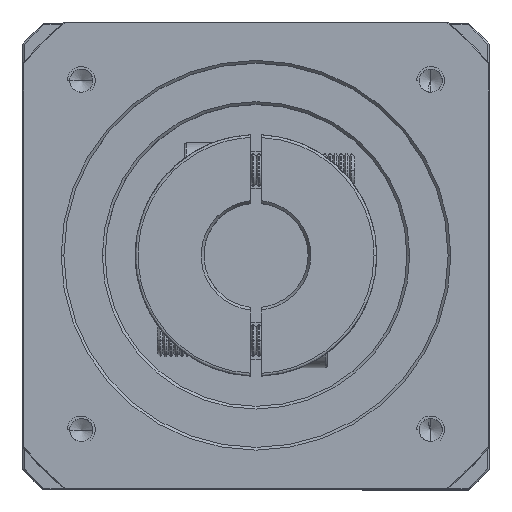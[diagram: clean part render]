
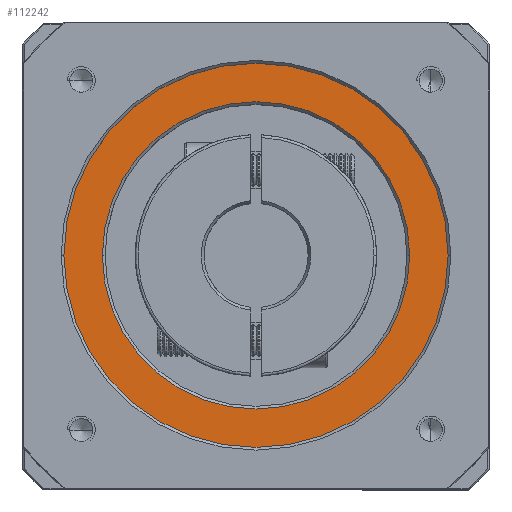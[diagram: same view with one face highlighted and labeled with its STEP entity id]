
A CAD part, top view. The second image highlights one B-rep face of the part: STEP entity #112242.
In plain terms, the highlighted planar face has unit normal (0, 0, 1).
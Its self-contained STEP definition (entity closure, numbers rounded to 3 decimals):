
#744 = PLANE ( 'NONE',  #124029 ) ;
#2113 = AXIS2_PLACEMENT_3D ( 'NONE', #29395, #98862, #48502 ) ;
#4272 = DIRECTION ( 'NONE',  ( 1., 0., 0. ) ) ;
#4357 = DIRECTION ( 'NONE',  ( 0., 0., 1. ) ) ;
#5493 = VERTEX_POINT ( 'NONE', #21495 ) ;
#6017 = CARTESIAN_POINT ( 'NONE',  ( -52.737, 49.441, 19.814 ) ) ;
#8318 = EDGE_CURVE ( 'NONE', #123384, #11591, #119430, .T. ) ;
#9440 = DIRECTION ( 'NONE',  ( 0., 0., 1. ) ) ;
#11333 = ORIENTED_EDGE ( 'NONE', *, *, #35650, .T. ) ;
#11591 = VERTEX_POINT ( 'NONE', #51313 ) ;
#12225 = DIRECTION ( 'NONE',  ( 0., 0., -1. ) ) ;
#19127 = EDGE_CURVE ( 'NONE', #11591, #123384, #39736, .T. ) ;
#19529 = FACE_OUTER_BOUND ( 'NONE', #56954, .T. ) ;
#21495 = CARTESIAN_POINT ( 'NONE',  ( -17.737, 49.441, 19.814 ) ) ;
#29395 = CARTESIAN_POINT ( 'NONE',  ( -52.737, 49.441, 19.814 ) ) ;
#35650 = EDGE_CURVE ( 'NONE', #5493, #95022, #108989, .T. ) ;
#39736 = CIRCLE ( 'NONE', #52150, 28. ) ;
#44289 = CIRCLE ( 'NONE', #110226, 35. ) ;
#44647 = EDGE_LOOP ( 'NONE', ( #87200, #64010 ) ) ;
#48502 = DIRECTION ( 'NONE',  ( 1., 0., 0. ) ) ;
#50657 = AXIS2_PLACEMENT_3D ( 'NONE', #6017, #104594, #4272 ) ;
#51313 = CARTESIAN_POINT ( 'NONE',  ( -24.737, 49.441, 19.814 ) ) ;
#52150 = AXIS2_PLACEMENT_3D ( 'NONE', #82649, #12225, #112562 ) ;
#55358 = CARTESIAN_POINT ( 'NONE',  ( -80.737, 49.441, 19.814 ) ) ;
#56954 = EDGE_LOOP ( 'NONE', ( #11333, #112480 ) ) ;
#59860 = CARTESIAN_POINT ( 'NONE',  ( -52.737, 49.441, 19.814 ) ) ;
#64010 = ORIENTED_EDGE ( 'NONE', *, *, #8318, .T. ) ;
#79070 = DIRECTION ( 'NONE',  ( 1., 0., 0. ) ) ;
#82649 = CARTESIAN_POINT ( 'NONE',  ( -52.737, 49.441, 19.814 ) ) ;
#83288 = EDGE_CURVE ( 'NONE', #95022, #5493, #44289, .T. ) ;
#87200 = ORIENTED_EDGE ( 'NONE', *, *, #19127, .T. ) ;
#93471 = CARTESIAN_POINT ( 'NONE',  ( -52.737, 49.441, 19.814 ) ) ;
#95022 = VERTEX_POINT ( 'NONE', #96583 ) ;
#96583 = CARTESIAN_POINT ( 'NONE',  ( -87.737, 49.441, 19.814 ) ) ;
#98862 = DIRECTION ( 'NONE',  ( 0., 0., 1. ) ) ;
#104594 = DIRECTION ( 'NONE',  ( 0., 0., -1. ) ) ;
#105125 = FACE_BOUND ( 'NONE', #44647, .T. ) ;
#108989 = CIRCLE ( 'NONE', #2113, 35. ) ;
#110226 = AXIS2_PLACEMENT_3D ( 'NONE', #93471, #4357, #124268 ) ;
#112242 = ADVANCED_FACE ( 'NONE', ( #19529, #105125 ), #744, .T. ) ;
#112480 = ORIENTED_EDGE ( 'NONE', *, *, #83288, .T. ) ;
#112562 = DIRECTION ( 'NONE',  ( 1., 0., 0. ) ) ;
#119430 = CIRCLE ( 'NONE', #50657, 28. ) ;
#123384 = VERTEX_POINT ( 'NONE', #55358 ) ;
#124029 = AXIS2_PLACEMENT_3D ( 'NONE', #59860, #9440, #79070 ) ;
#124268 = DIRECTION ( 'NONE',  ( 1., 0., 0. ) ) ;
